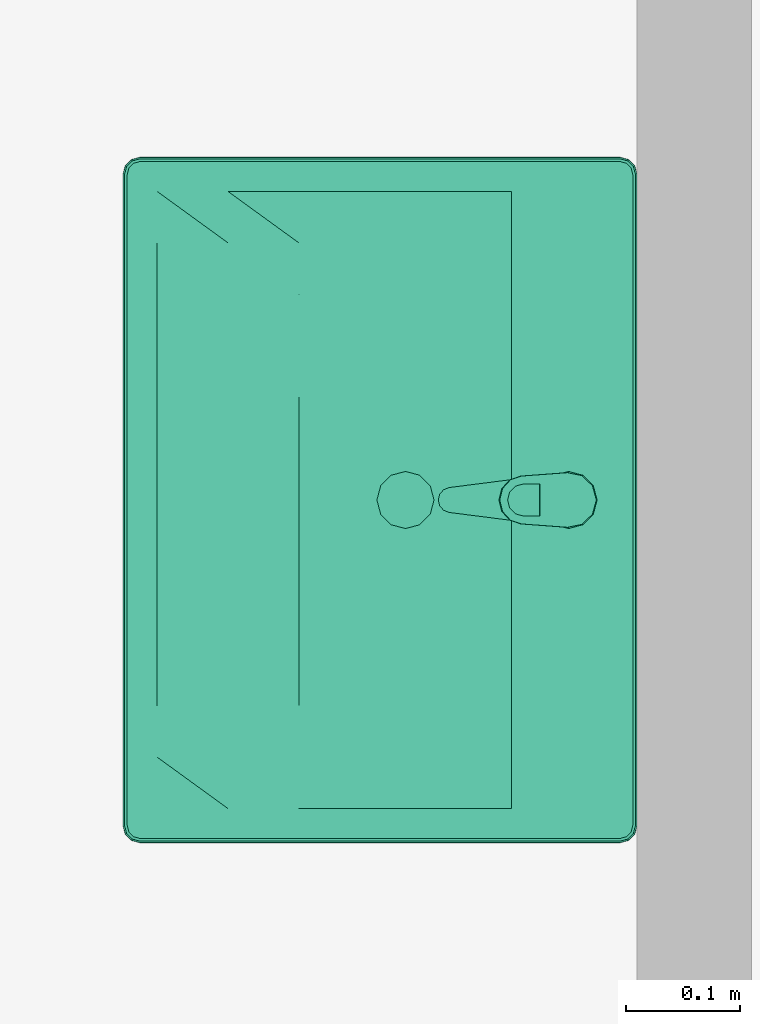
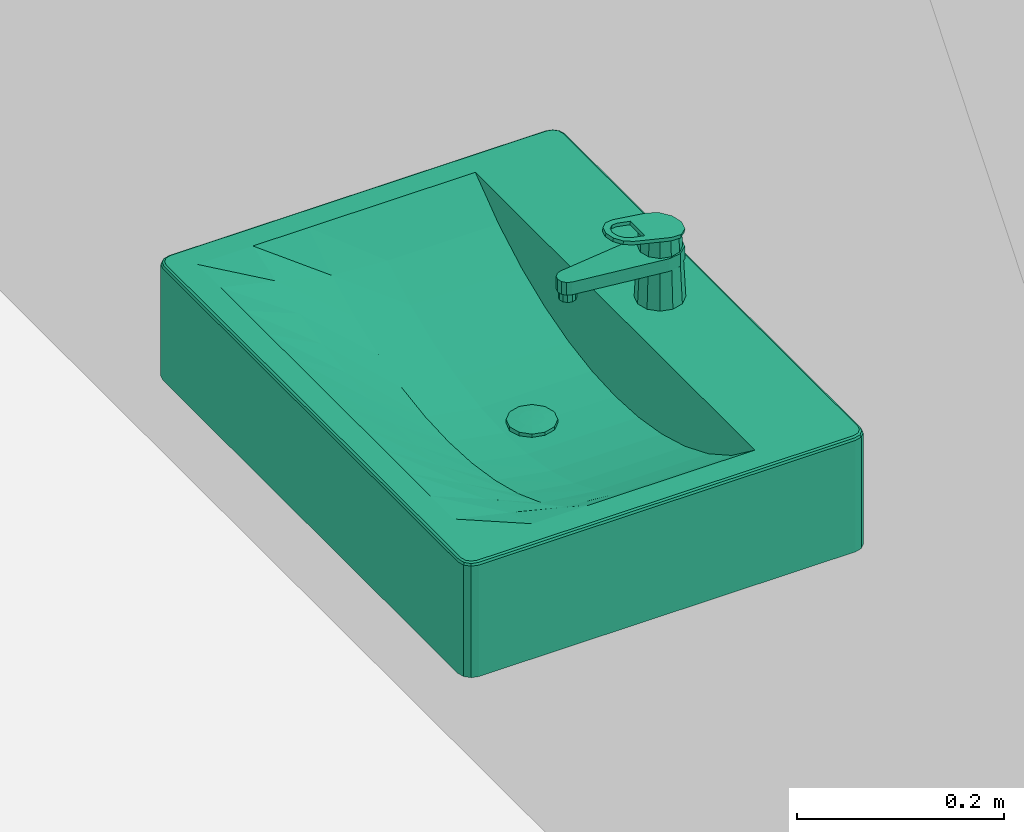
# One storey, part 95 of 117: 1 flow controller.
"""IFC2X3 building model written with IfcOpenShell, lengths in millimetres."""

from ifc_helpers import new_model, entity, si_unit, converted_unit, derived_unit, money_unit, direction, frame, origin_with_axes, place, context, subcontext, project, spatial, open_shell, faceted_brep, surface_model, source, transform, mapped, type_object, type_shapes, element, save


model = new_model("IFC2X3")

# Units and contexts
model_context = context("Model", 3, precision=0.01, world=origin_with_axes(), true_north=direction((0.0, 1.0)))
body_context = subcontext(model_context, "Body", "Model", "MODEL_VIEW")
ifc_project = project(units=[si_unit("LENGTHUNIT", "METRE", prefix="MILLI"), si_unit("AREAUNIT", "SQUARE_METRE"), si_unit("VOLUMEUNIT", "CUBIC_METRE"), converted_unit("PLANEANGLEUNIT", "DEGREE", entity("IfcPlaneAngleMeasure", 0.0174532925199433), si_unit("PLANEANGLEUNIT", "RADIAN"), dimensions=[0, 0, 0, 0, 0, 0, 0]), money_unit("EUR"), converted_unit("TIMEUNIT", "Year", entity("IfcTimeMeasure", 31557600.0), si_unit("TIMEUNIT", "SECOND"), dimensions=[0, 0, 1, 0, 0, 0, 0]), si_unit("MASSUNIT", "GRAM", prefix="KILO"), si_unit("THERMODYNAMICTEMPERATUREUNIT", "DEGREE_CELSIUS"), si_unit("LUMINOUSINTENSITYUNIT", "LUMEN"), si_unit("ENERGYUNIT", "JOULE", prefix="MEGA"), derived_unit("THERMALCONDUCTANCEUNIT", [(si_unit("POWERUNIT", "WATT"), 1), (si_unit("LENGTHUNIT", "METRE"), -1), (si_unit("THERMODYNAMICTEMPERATUREUNIT", "KELVIN"), -1)]), derived_unit("SPECIFICHEATCAPACITYUNIT", [(si_unit("ENERGYUNIT", "JOULE"), 1), (si_unit("MASSUNIT", "GRAM", prefix="KILO"), -1), (si_unit("THERMODYNAMICTEMPERATUREUNIT", "KELVIN"), -1)]), derived_unit("MASSDENSITYUNIT", [(si_unit("MASSUNIT", "GRAM", prefix="KILO"), 1), (si_unit("VOLUMEUNIT", "CUBIC_METRE"), -1)])], contexts=[model_context])

# Site, building, storey
site_placement = place(None, origin_with_axes())
site = spatial("IfcSite", under=ifc_project, at=site_placement, Name="Site", CompositionType="ELEMENT")
building_placement = place(site_placement, origin_with_axes())
building = spatial("IfcBuilding", under=site, at=building_placement, Name="Naam gebouw", CompositionType="ELEMENT")
storey_placement = place(building_placement, frame((0.0, 0.0, 4150.0), z_axis=(0.0, 0.0, 1.0), x_axis=(1.0, 0.0, 0.0)))
storey = spatial("IfcBuildingStorey", under=building, at=storey_placement, Name="1e verdieping N", CompositionType="ELEMENT", Elevation=4150.0)

# Flow controller
valve_type = type_object("IfcValveType", Name="Wasbak 27", PredefinedType="NOTDEFINED")
shared_shape = source(origin_with_axes(), body_context, "Body", "SurfaceModel", [
    faceted_brep([(285.0, -450.0, 865.0), (-285.0, -450.0, 865.0), (-292.5, -447.9903810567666, 865.0), (-297.9903810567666, -442.5, 865.0), (-300.0, -435.0, 865.0), (-300.0, -15.00000000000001, 865.0), (-297.9903810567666, -7.500000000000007, 865.0), (-292.5, -2.009618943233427, 865.0), (-285.0, 0.0, 865.0), (285.0, 0.0, 865.0), (292.5, -2.009618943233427, 865.0), (297.9903810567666, -7.500000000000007, 865.0), (300.0, -15.00000000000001, 865.0), (300.0, -435.0, 865.0), (297.9903810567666, -442.5, 865.0), (292.5, -447.9903810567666, 865.0), (-270.0, -420.0000000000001, 865.0), (270.0, -420.0000000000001, 865.0), (270.0, -110.0, 865.0), (-270.0, -110.0, 865.0), (284.9999995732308, -450.0000003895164, 995.0), (-284.9999997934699, -450.0000003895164, 995.0), (-292.5000000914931, -447.9903813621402, 995.0), (-297.9903813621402, -442.5000000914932, 995.0), (-300.0000003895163, -434.99999979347, 995.0), (-300.0000003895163, -14.99999986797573, 995.0), (-297.9903813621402, -7.499999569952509, 995.0), (-292.5000000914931, -2.009619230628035, 995.0), (-284.9999997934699, -2.032518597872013e-07, 995.0), (284.9999995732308, -2.032518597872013e-07, 995.0), (292.499999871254, -2.009619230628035, 995.0), (297.990381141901, -7.499999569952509, 995.0), (300.0000001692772, -14.99999986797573, 995.0), (300.0000001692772, -434.99999979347, 995.0), (297.990381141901, -442.5000000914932, 995.0), (292.499999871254, -447.9903813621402, 995.0), (-270.0, -420.0000000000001, 999.9999996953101), (270.0, -420.0000000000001, 999.9999996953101), (270.0, -110.0, 999.9999996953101), (-270.0, -110.0, 999.9999996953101), (284.9775698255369, -449.8296295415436, 996.2940952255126), (-284.9775700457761, -449.8296295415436, 996.2940952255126), (-292.4118096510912, -447.8376310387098, 996.2940952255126), (-297.8376310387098, -442.4118096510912, 996.2940952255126), (-299.8296295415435, -434.9775700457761, 996.2940952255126), (-299.8296295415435, -15.02242961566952, 996.2940952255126), (-297.8376310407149, -7.588190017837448, 996.2940952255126), (-292.4118096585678, -2.16236955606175, 996.2940952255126), (-284.9775700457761, -0.1703710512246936, 996.2940952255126), (284.9775698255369, -0.1703710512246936, 996.2940952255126), (292.4118094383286, -2.16236955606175, 996.2940952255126), (297.8376308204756, -7.588190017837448, 996.2940952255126), (299.8296293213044, -15.02242961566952, 996.2940952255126), (299.8296293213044, -434.9775700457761, 996.2940952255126), (297.8376308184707, -442.4118096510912, 996.2940952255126), (292.411809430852, -447.8376310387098, 996.2940952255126), (-284.3417376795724, -4.999997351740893, 999.9999996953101), (-289.911811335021, -6.492494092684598, 999.9999996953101), (-293.5075066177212, -10.08818876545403, 999.9999996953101), (-295.0000032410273, -15.6582619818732, 999.9999996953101), (-295.0000032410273, -434.3417376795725, 999.9999996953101), (-293.5075065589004, -439.9118111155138, 999.9999996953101), (-289.9118111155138, -443.5075065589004, 999.9999996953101), (-284.3417376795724, -445.0000032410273, 999.9999996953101), (284.3417374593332, -445.0000032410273, 999.9999996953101), (289.9118108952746, -443.5075065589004, 999.9999996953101), (293.5075063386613, -439.9118111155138, 999.9999996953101), (295.0000030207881, -434.3417376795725, 999.9999996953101), (295.0000030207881, -15.6582619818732, 999.9999996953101), (293.507506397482, -10.08818876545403, 999.9999996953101), (289.9118111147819, -6.492494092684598, 999.9999996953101), (284.3417374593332, -4.999997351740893, 999.9999996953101), (284.8071989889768, -448.5355345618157, 998.5355339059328), (-284.8071992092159, -448.5355345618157, 998.5355339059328), (-291.7419367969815, -446.6773772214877, 998.5355339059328), (-296.6773772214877, -441.7419367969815, 998.5355339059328), (-298.5355345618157, -434.807199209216, 998.5355339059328), (-298.5355345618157, -15.1928004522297, 998.5355339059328), (-296.6773772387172, -8.258062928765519, 998.5355339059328), (-291.7419368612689, -3.322623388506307, 998.5355339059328), (-284.8071992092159, -1.464466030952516, 998.5355339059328), (284.8071989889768, -1.464466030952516, 998.5355339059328), (291.7419366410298, -3.322623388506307, 998.5355339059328), (296.677377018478, -8.258062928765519, 998.5355339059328), (298.5355343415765, -15.1928004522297, 998.5355339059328), (298.5355343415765, -434.807199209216, 998.5355339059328), (296.6773770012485, -441.7419367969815, 998.5355339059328), (291.7419365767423, -446.6773772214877, 998.5355339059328), (-290.5816830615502, -5.332242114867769, 999.8296291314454), (-284.5121082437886, -3.705904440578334, 999.8296291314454), (-294.6677585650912, -9.418316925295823, 999.8296291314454), (-296.2940961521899, -15.487891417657, 999.8296291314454), (-296.2940961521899, -434.5121082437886, 999.8296291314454), (-294.6677585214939, -440.5816828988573, 999.8296291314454), (-290.5816828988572, -444.6677585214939, 999.8296291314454), (-284.5121082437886, -446.2940961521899, 999.8296291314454), (284.5121080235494, -446.2940961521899, 999.8296291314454), (290.5816826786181, -444.6677585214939, 999.8296291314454), (294.6677583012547, -440.5816828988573, 999.8296291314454), (296.2940959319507, -434.5121082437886, 999.8296291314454), (296.2940959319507, -15.487891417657, 999.8296291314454), (294.667758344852, -9.418316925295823, 999.8296291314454), (290.581682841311, -5.332242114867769, 999.8296291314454), (284.5121080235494, -3.705904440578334, 999.8296291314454)], [[[0, 1, 2, 3, 4, 5, 6, 7, 8, 9, 10, 11, 12, 13, 14, 15], [16, 17, 18, 19]], [[0, 20, 21, 1]], [[1, 21, 22, 2]], [[2, 22, 23, 3]], [[3, 23, 24, 4]], [[4, 24, 25, 5]], [[5, 25, 26, 6]], [[6, 26, 27, 7]], [[7, 27, 28, 8]], [[8, 28, 29, 9]], [[9, 29, 30, 10]], [[10, 30, 31, 11]], [[11, 31, 32, 12]], [[12, 32, 33, 13]], [[13, 33, 34, 14]], [[14, 34, 35, 15]], [[15, 35, 20, 0]], [[36, 37, 17, 16]], [[37, 38, 18, 17]], [[38, 39, 19, 18]], [[39, 36, 16, 19]], [[20, 40, 41, 21]], [[21, 41, 42, 22]], [[22, 42, 43, 23]], [[23, 43, 44, 24]], [[24, 44, 45, 25]], [[25, 45, 46, 26]], [[26, 46, 47, 27]], [[27, 47, 48, 28]], [[28, 48, 49, 29]], [[29, 49, 50, 30]], [[30, 50, 51, 31]], [[31, 51, 52, 32]], [[32, 52, 53, 33]], [[33, 53, 54, 34]], [[34, 54, 55, 35]], [[35, 55, 40, 20]], [[56, 57, 58, 59, 60, 61, 62, 63, 64, 65, 66, 67, 68, 69, 70, 71], [36, 39, 38, 37]], [[40, 72, 73, 41]], [[41, 73, 74, 42]], [[42, 74, 75, 43]], [[43, 75, 76, 44]], [[44, 76, 77, 45]], [[45, 77, 78, 46]], [[46, 78, 79, 47]], [[47, 79, 80, 48]], [[48, 80, 81, 49]], [[49, 81, 82, 50]], [[50, 82, 83, 51]], [[51, 83, 84, 52]], [[52, 84, 85, 53]], [[53, 85, 86, 54]], [[54, 86, 87, 55]], [[55, 87, 72, 40]], [[88, 57, 56, 89]], [[90, 58, 57, 88]], [[91, 59, 58, 90]], [[92, 60, 59, 91]], [[93, 61, 60, 92]], [[94, 62, 61, 93]], [[95, 63, 62, 94]], [[96, 64, 63, 95]], [[97, 65, 64, 96]], [[98, 66, 65, 97]], [[99, 67, 66, 98]], [[100, 68, 67, 99]], [[101, 69, 68, 100]], [[102, 70, 69, 101]], [[103, 71, 70, 102]], [[89, 56, 71, 103]], [[72, 96, 95, 73]], [[73, 95, 94, 74]], [[74, 94, 93, 75]], [[75, 93, 92, 76]], [[76, 92, 91, 77]], [[77, 91, 90, 78]], [[78, 90, 88, 79]], [[79, 88, 89, 80]], [[80, 89, 103, 81]], [[81, 103, 102, 82]], [[82, 102, 101, 83]], [[83, 101, 100, 84]], [[84, 100, 99, 85]], [[85, 99, 98, 86]], [[86, 98, 97, 87]], [[87, 97, 96, 72]]]),
    faceted_brep([(-270.0, -420.0000000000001, 865.0), (-270.0, -110.0, 865.0), (270.0, -110.0, 865.0), (270.0, -420.0000000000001, 865.0), (12.49999999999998, -224.368635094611, 865.0), (21.65063509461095, -215.218, 865.0), (25.0, -202.718, 865.0), (21.65063509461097, -190.218, 865.0), (12.50000000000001, -181.067364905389, 865.0), (0.0, -177.718, 865.0), (-12.49999999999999, -181.067364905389, 865.0), (-21.65063509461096, -190.218, 865.0), (-25.0, -202.718, 865.0), (-21.65063509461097, -215.218, 865.0), (-12.50000000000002, -224.368635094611, 865.0), (0.0, -227.718, 865.0), (-270.0, -296.0000000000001, 1000.0), (-270.0, -234.0, 1000.0), (-270.0, -172.0, 1000.0), (-270.0, -110.0, 1000.0), (-270.0, -420.0000000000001, 1000.0), (-270.0, -358.0000000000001, 1000.0), (135.0, -110.0, 922.6004593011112), (180.0000000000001, -110.0, 941.1231796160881), (225.0, -110.0, 966.3832810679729), (270.0, -110.0, 1000.0), (-225.0, -110.0, 966.3832810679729), (-180.0, -110.0, 941.1231796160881), (-135.0, -110.0, 922.6004593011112), (-90.0, -110.0, 909.8887668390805), (-44.99999999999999, -110.0, 902.449942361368), (0.0, -110.0, 900.0), (45.00000000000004, -110.0, 902.449942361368), (90.00000000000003, -110.0, 909.8887668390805), (270.0, -234.0, 1000.0), (270.0, -296.0000000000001, 999.9999999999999), (270.0, -358.0000000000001, 1000.0), (270.0, -420.0000000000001, 1000.0), (270.0, -172.0, 1000.0), (-135.0, -420.0000000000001, 1000.0), (-180.0, -420.0000000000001, 1000.0), (-225.0, -420.0000000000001, 1000.0), (225.0, -420.0000000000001, 1000.0), (180.0000000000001, -420.0000000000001, 1000.0), (135.0, -420.0000000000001, 1000.0), (90.00000000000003, -420.0000000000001, 1000.0), (45.00000000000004, -420.0000000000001, 1000.0), (0.0, -420.0000000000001, 1000.0), (-44.99999999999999, -420.0000000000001, 1000.0), (-90.0, -420.0000000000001, 1000.0), (12.49999999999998, -224.368635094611, 900.6805395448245), (21.65063509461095, -215.218, 901.1787290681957), (25.0, -202.718, 901.3610790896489), (21.65063509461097, -190.218, 901.1787290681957), (12.50000000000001, -181.067364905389, 900.6805395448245), (0.0, -177.718, 900.0), (-12.49999999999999, -181.067364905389, 900.6805395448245), (-21.65063509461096, -190.218, 901.1787290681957), (-25.0, -202.718, 901.3610790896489), (-21.65063509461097, -215.218, 901.1787290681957), (-12.50000000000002, -224.368635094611, 900.6805395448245), (0.0, -227.718, 900.0), (-225.0, -234.0, 966.3832810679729), (-225.0, -172.0, 966.3832810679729), (-225.0, -358.0000000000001, 985.9168845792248), (-225.0, -296.0000000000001, 970.8433791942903), (180.0000000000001, -172.0, 941.1231796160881), (135.0, -172.0, 922.6004593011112), (225.0, -172.0, 966.3832810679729), (-180.0, -172.0, 941.1231796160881), (-135.0, -172.0, 922.6004593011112), (-90.0, -172.0, 909.8887668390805), (-44.99999999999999, -172.0, 902.449942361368), (0.0, -172.0, 900.0), (45.00000000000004, -172.0, 902.449942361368), (90.00000000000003, -172.0, 909.8887668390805), (225.0, -296.0000000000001, 970.8433791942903), (225.0, -358.0000000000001, 985.9168845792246), (225.0, -234.0, 966.3832810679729), (-135.0, -358.0000000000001, 965.8650987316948), (-180.0, -358.0000000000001, 974.5766150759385), (180.0000000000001, -358.0000000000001, 974.5766150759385), (135.0, -358.0000000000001, 965.8650987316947), (90.00000000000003, -358.0000000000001, 959.6989661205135), (45.00000000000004, -358.0000000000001, 956.0213334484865), (0.0, -358.0000000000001, 954.7990813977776), (-44.99999999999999, -358.0000000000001, 956.0213334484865), (-90.0, -358.0000000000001, 959.6989661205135), (0.0, -234.0, 900.0), (45.00000000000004, -234.0, 902.449942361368), (-44.99999999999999, -234.0, 902.449942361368), (-180.0, -234.0, 941.1231796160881), (180.0000000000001, -234.0, 941.1231796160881), (135.0, -234.0, 922.6004593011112), (-135.0, -234.0, 922.6004593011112), (-90.0, -234.0, 909.8887668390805), (90.00000000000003, -234.0, 909.8887668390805), (0.0, -296.0000000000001, 911.4604006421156), (-44.99999999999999, -296.0000000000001, 913.6864730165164), (-180.0, -296.0000000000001, 948.4946543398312), (135.0, -296.0000000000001, 931.904485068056), (180.0000000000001, -296.0000000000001, 948.4946543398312), (-135.0, -296.0000000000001, 931.904485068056), (-90.0, -296.0000000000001, 920.4312036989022), (45.00000000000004, -296.0000000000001, 913.6864730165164), (90.00000000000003, -296.0000000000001, 920.4312036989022)], [[[0, 1, 2, 3], [4, 5, 6, 7, 8, 9, 10, 11, 12, 13, 14, 15]], [[16, 17, 18, 19, 1, 0, 20, 21]], [[22, 23, 24, 25, 2, 1, 19, 26, 27, 28, 29, 30, 31, 32, 33]], [[34, 35, 36, 37, 3, 2, 25, 38]], [[39, 40, 41, 20, 0, 3, 37, 42, 43, 44, 45, 46, 47, 48, 49]], [[50, 51, 5, 4]], [[51, 52, 6, 5]], [[52, 53, 7, 6]], [[53, 54, 8, 7]], [[54, 55, 9, 8]], [[55, 56, 10, 9]], [[56, 57, 11, 10]], [[57, 58, 12, 11]], [[58, 59, 13, 12]], [[59, 60, 14, 13]], [[60, 61, 15, 14]], [[61, 50, 4, 15]], [[16, 62, 17]], [[62, 63, 18, 17]], [[63, 26, 19, 18]], [[20, 64, 21]], [[21, 65, 16]], [[66, 23, 22, 67]], [[68, 24, 23, 66]], [[38, 25, 24, 68]], [[69, 27, 26, 63]], [[70, 28, 27, 69]], [[71, 29, 28, 70]], [[72, 30, 29, 71]], [[73, 31, 30, 72]], [[74, 32, 31, 73]], [[75, 33, 32, 74]], [[67, 22, 33, 75]], [[76, 35, 34]], [[77, 36, 35]], [[42, 37, 36]], [[34, 38, 68, 78]], [[40, 39, 79]], [[41, 40, 80]], [[20, 41, 64]], [[43, 42, 77]], [[44, 43, 81]], [[45, 44, 82]], [[46, 45, 83]], [[47, 46, 84]], [[48, 47, 85]], [[49, 48, 86]], [[39, 49, 87]], [[54, 53, 52, 51, 50, 61, 88, 89, 74, 73, 55]], [[56, 55, 73, 72, 90, 88, 61, 60, 59, 58, 57]], [[16, 65, 62]], [[91, 69, 63, 62]], [[21, 64, 65]], [[92, 66, 67, 93]], [[78, 68, 66, 92]], [[94, 70, 69, 91]], [[95, 71, 70, 94]], [[90, 72, 71, 95]], [[96, 75, 74, 89]], [[93, 67, 75, 96]], [[77, 35, 76]], [[76, 34, 78]], [[42, 36, 77]], [[39, 87, 79]], [[40, 79, 80]], [[41, 80, 64]], [[43, 77, 81]], [[44, 81, 82]], [[45, 82, 83]], [[46, 83, 84]], [[47, 84, 85]], [[48, 85, 86]], [[49, 86, 87]], [[97, 89, 88]], [[98, 88, 90]], [[65, 91, 62]], [[64, 99, 65]], [[100, 92, 93]], [[101, 78, 92]], [[99, 94, 91]], [[102, 95, 94]], [[103, 90, 95]], [[104, 96, 89]], [[105, 93, 96]], [[81, 77, 76]], [[101, 76, 78]], [[79, 87, 103]], [[80, 79, 102]], [[64, 80, 99]], [[82, 81, 101]], [[83, 82, 100]], [[84, 83, 105]], [[85, 84, 104]], [[86, 85, 97]], [[87, 86, 98]], [[97, 104, 89]], [[98, 97, 88]], [[103, 98, 90]], [[65, 99, 91]], [[100, 101, 92]], [[105, 100, 93]], [[99, 102, 94]], [[102, 103, 95]], [[104, 105, 96]], [[81, 76, 101]], [[87, 98, 103]], [[79, 103, 102]], [[80, 102, 99]], [[82, 101, 100]], [[83, 100, 105]], [[84, 105, 104]], [[85, 104, 97]], [[86, 97, 98]]]),
    faceted_brep([(21.65063509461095, -215.218, 900.0), (12.49999999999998, -224.368635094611, 900.0), (0.0, -227.718, 900.0), (-12.50000000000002, -224.368635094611, 900.0), (-21.65063509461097, -215.218, 900.0), (-25.0, -202.718, 900.0), (-21.65063509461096, -190.218, 900.0), (-12.49999999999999, -181.067364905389, 900.0), (0.0, -177.718, 900.0), (12.50000000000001, -181.067364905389, 900.0), (21.65063509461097, -190.218, 900.0), (25.0, -202.718, 900.0), (21.65063509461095, -215.218, 905.0), (12.49999999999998, -224.368635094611, 905.0), (0.0, -227.718, 905.0), (-12.50000000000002, -224.368635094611, 905.0), (-21.65063509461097, -215.218, 905.0), (-25.0, -202.718, 905.0), (-21.65063509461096, -190.218, 905.0), (-12.49999999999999, -181.067364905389, 905.0), (0.0, -177.718, 905.0), (12.50000000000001, -181.067364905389, 905.0), (21.65063509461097, -190.218, 905.0), (25.0, -202.718, 905.0)], [[[0, 1, 2, 3, 4, 5, 6, 7, 8, 9, 10, 11]], [[1, 0, 12, 13]], [[2, 1, 13, 14]], [[3, 2, 14, 15]], [[4, 3, 15, 16]], [[5, 4, 16, 17]], [[6, 5, 17, 18]], [[7, 6, 18, 19]], [[8, 7, 19, 20]], [[9, 8, 20, 21]], [[10, 9, 21, 22]], [[11, 10, 22, 23]], [[0, 11, 23, 12]], [[12, 23, 22, 21, 20, 19, 18, 17, 16, 15, 14, 13]]]),
    surface_model("IfcShellBasedSurfaceModel", [(0.0, -202.718, 907.0), (0.0, -190.09609443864, 906.4975737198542), (-6.310952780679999, -191.7871091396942, 906.4975737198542), (6.310952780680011, -191.7871091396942, 906.4975737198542), (0.0, -177.718, 905.0), (-12.5, -181.067364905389, 905.0), (-10.93089086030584, -196.40704721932, 906.4975737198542), (10.93089086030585, -196.40704721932, 906.4975737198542), (12.50000000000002, -181.067364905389, 905.0), (-21.65063509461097, -190.218, 905.0), (-12.62190556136, -202.718, 906.4975737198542), (12.62190556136, -202.718, 906.4975737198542), (21.65063509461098, -190.218, 905.0), (-25.0, -202.718, 905.0), (-10.93089086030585, -209.02895278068, 906.4975737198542), (10.93089086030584, -209.02895278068, 906.4975737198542), (25.0, -202.718, 905.0), (-21.65063509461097, -215.218, 905.0), (-6.310952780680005, -213.6488908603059, 906.4975737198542), (6.310952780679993, -213.6488908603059, 906.4975737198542), (21.65063509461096, -215.218, 905.0), (-12.50000000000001, -224.368635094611, 905.0), (0.0, -215.33990556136, 906.4975737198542), (12.49999999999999, -224.368635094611, 905.0), (0.0, -227.718, 905.0)], [open_shell([[[0, 1, 2]], [[0, 3, 1]], [[2, 1, 4, 5]], [[0, 2, 6]], [[0, 7, 3]], [[1, 3, 8, 4]], [[6, 2, 5, 9]], [[0, 6, 10]], [[0, 11, 7]], [[3, 7, 12, 8]], [[10, 6, 9, 13]], [[0, 10, 14]], [[0, 15, 11]], [[7, 11, 16, 12]], [[14, 10, 13, 17]], [[0, 14, 18]], [[0, 19, 15]], [[11, 15, 20, 16]], [[18, 14, 17, 21]], [[0, 18, 22]], [[0, 22, 19]], [[15, 19, 23, 20]], [[22, 18, 21, 24]], [[19, 22, 24, 23]]])]),
    faceted_brep([(12.50000000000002, -38.34936490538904, 1000.0), (0.0, -34.99999999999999, 1000.0), (0.0, -38.79807692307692, 1075.961538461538), (10.587322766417, -41.66221905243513, 1076.507089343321), (21.65063509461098, -47.50000000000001, 1000.0), (25.0, -60.00000000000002, 1000.0), (21.65063509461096, -72.50000000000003, 1000.0), (12.49999999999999, -81.65063509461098, 1000.0), (0.0, -84.99999999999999, 1000.0), (-12.50000000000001, -81.65063509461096, 1000.0), (-21.65063509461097, -72.5, 1000.0), (-25.0, -59.99999999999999, 1000.0), (-21.65063509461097, -47.49999999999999, 1000.0), (-12.5, -38.34936490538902, 1000.0), (-10.58732276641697, -41.66221905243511, 1076.507089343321), (-18.27355038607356, -49.44976076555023, 1077.99043062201), (-21.0, -59.99999999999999, 1080.0), (-18.10034137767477, -70.45023696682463, 1081.990521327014), (-10.41410590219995, -78.0377605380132, 1083.435763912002), (0.0, -80.80188679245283, 1083.962264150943), (10.41410590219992, -78.03776053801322, 1083.435763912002), (18.10034137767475, -70.45023696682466, 1081.990521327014), (21.0, -60.00000000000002, 1080.0), (18.27355038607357, -49.44976076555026, 1077.99043062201)], [[[0, 1, 2, 3]], [[0, 4, 5, 6, 7, 8, 9, 10, 11, 12, 13, 1]], [[1, 13, 14, 2]], [[3, 2, 14, 15, 16, 17, 18, 19, 20, 21, 22, 23]], [[4, 0, 3, 23]], [[5, 4, 23, 22]], [[6, 5, 22, 21]], [[7, 6, 21, 20]], [[8, 7, 20, 19]], [[9, 8, 19, 18]], [[10, 9, 18, 17]], [[11, 10, 17, 16]], [[12, 11, 16, 15]], [[13, 12, 15, 14]]]),
    faceted_brep([(9.000000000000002, -163.0, 1035.0), (7.794228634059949, -158.5, 1035.0), (7.794228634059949, -158.5, 1045.0), (9.000000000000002, -163.0, 1045.0), (7.794228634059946, -167.5, 1035.0), (4.499999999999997, -170.79422863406, 1035.0), (0.0, -172.0, 1035.0), (-4.500000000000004, -170.79422863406, 1035.0), (-7.794228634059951, -167.5, 1035.0), (-9.000000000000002, -163.0, 1035.0), (-7.794228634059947, -158.5, 1035.0), (-4.499999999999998, -155.2057713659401, 1035.0), (0.0, -154.0, 1035.0), (4.500000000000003, -155.2057713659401, 1035.0), (4.500000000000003, -155.2057713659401, 1045.0), (0.0, -154.0, 1045.0), (-4.499999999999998, -155.2057713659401, 1045.0), (-7.794228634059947, -158.5, 1045.0), (-9.000000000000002, -163.0, 1045.0), (-7.794228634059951, -167.5, 1045.0), (-4.500000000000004, -170.79422863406, 1045.0), (0.0, -172.0, 1045.0), (4.499999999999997, -170.79422863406, 1045.0), (7.794228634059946, -167.5, 1045.0)], [[[0, 1, 2, 3]], [[0, 4, 5, 6, 7, 8, 9, 10, 11, 12, 13, 1]], [[1, 13, 14, 2]], [[3, 2, 14, 15, 16, 17, 18, 19, 20, 21, 22, 23]], [[4, 0, 3, 23]], [[5, 4, 23, 22]], [[6, 5, 22, 21]], [[7, 6, 21, 20]], [[8, 7, 20, 19]], [[9, 8, 19, 18]], [[10, 9, 18, 17]], [[11, 10, 17, 16]], [[12, 11, 16, 15]], [[13, 12, 15, 14]]]),
    faceted_brep([(-12.87171762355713, -39.74369617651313, 1060.0), (-21.72780530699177, -49.80679463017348, 1060.0), (-23.8054, -63.04989999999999, 1060.0), (-10.9119908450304, -164.3883719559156, 1060.0), (-9.02887546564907, -169.2831941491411, 1060.0), (-5.093324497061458, -172.7497264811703, 1060.0), (3.626798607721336e-05, -173.9999600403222, 1060.0), (5.093388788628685, -172.7496928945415, 1060.0), (9.02891689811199, -169.2831346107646, 1060.0), (10.912, -164.3883, 1060.0), (23.80539974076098, -63.04990202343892, 1060.0), (21.72780617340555, -49.80679647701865, 1060.0), (12.87171934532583, -39.74369727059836, 1060.0), (1.019988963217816e-06, -36.00002168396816, 1060.0), (11.00000000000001, -40.94744111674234, 1060.0), (19.05255888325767, -48.99999999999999, 1060.0), (22.00000000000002, -60.0, 1060.0), (19.05255888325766, -71.00000000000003, 1060.0), (10.99999999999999, -79.05255888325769, 1060.0), (0.0, -82.0, 1060.0), (-11.00000000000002, -79.05255888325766, 1060.0), (-19.05255888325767, -70.99999999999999, 1060.0), (-22.00000000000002, -59.99999999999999, 1060.0), (-19.05255888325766, -48.99999999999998, 1060.0), (-11.0, -40.94744111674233, 1060.0), (0.0, -37.99999999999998, 1060.0), (-21.72780530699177, -49.80679463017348, 1045.0), (-12.87171762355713, -39.74369617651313, 1045.0), (-23.8054, -63.04989999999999, 1045.0), (-10.9119908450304, -164.3883719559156, 1045.0), (-9.02887546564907, -169.2831941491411, 1045.0), (-5.093324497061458, -172.7497264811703, 1045.0), (3.626798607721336e-05, -173.9999600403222, 1045.0), (5.093388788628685, -172.7496928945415, 1045.0), (9.02891689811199, -169.2831346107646, 1045.0), (10.912, -164.3883, 1045.0), (23.80539974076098, -63.04990202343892, 1045.0), (21.72780617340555, -49.80679647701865, 1045.0), (12.87171934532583, -39.74369727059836, 1045.0), (1.019988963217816e-06, -36.00002168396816, 1045.0), (11.37500000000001, -40.297922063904, 1045.0), (19.70207793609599, -48.62499999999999, 1045.0), (22.75000000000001, -60.0, 1045.0), (19.70207793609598, -71.37500000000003, 1045.0), (11.37499999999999, -79.702077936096, 1045.0), (0.0, -82.75, 1045.0), (-11.37500000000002, -79.70207793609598, 1045.0), (-19.70207793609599, -71.375, 1045.0), (-22.75000000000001, -59.99999999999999, 1045.0), (-19.70207793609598, -48.62499999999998, 1045.0), (-11.375, -40.297922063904, 1045.0), (0.0, -37.24999999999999, 1045.0)], [[[0, 1, 2, 3, 4, 5, 6, 7, 8, 9, 10, 11, 12, 13], [14, 15, 16, 17, 18, 19, 20, 21, 22, 23, 24, 25]], [[26, 1, 0, 27]], [[28, 2, 1, 26]], [[29, 3, 2, 28]], [[30, 4, 3, 29]], [[31, 5, 4, 30]], [[32, 6, 5, 31]], [[33, 7, 6, 32]], [[34, 8, 7, 33]], [[35, 9, 8, 34]], [[36, 10, 9, 35]], [[37, 11, 10, 36]], [[38, 12, 11, 37]], [[39, 13, 12, 38]], [[27, 0, 13, 39]], [[40, 41, 15, 14]], [[41, 42, 16, 15]], [[42, 43, 17, 16]], [[43, 44, 18, 17]], [[44, 45, 19, 18]], [[20, 19, 45, 46]], [[21, 20, 46, 47]], [[22, 21, 47, 48]], [[23, 22, 48, 49]], [[24, 23, 49, 50]], [[50, 51, 25, 24]], [[51, 40, 14, 25]], [[32, 31, 30, 29, 28, 26, 27, 39, 38, 37, 36, 35, 34, 33], [44, 43, 42, 41, 40, 51, 50, 49, 48, 47, 46, 45]]]),
    faceted_brep([(23.893, -61.69256934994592, 1080.322394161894), (21.29642141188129, -49.22528119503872, 1077.947672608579), (21.29642141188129, -48.47683276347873, 1081.877026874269), (23.893, -60.94412091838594, 1084.251748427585), (20.94593649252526, -101.8367022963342, 1087.968895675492), (17.66313911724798, -111.514366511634, 1089.81226028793), (10.06143529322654, -118.4637460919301, 1091.135951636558), (-0.0004426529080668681, -120.9856119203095, 1091.61630703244), (-10.06221236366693, -118.4633294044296, 1091.13587226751), (-17.66361794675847, -111.5136350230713, 1089.812120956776), (-20.946, -101.8358348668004, 1087.968730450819), (-23.89302047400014, -61.69229042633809, 1080.322341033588), (-21.29629106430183, -49.22503258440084, 1077.947625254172), (-12.4716815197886, -39.90880255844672, 1076.173105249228), (0.0001423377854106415, -36.46803549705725, 1075.517721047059), (12.47192457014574, -39.90894815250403, 1076.173132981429), (14.0, -85.54080272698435, 1084.86491480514), (-14.0, -85.54080272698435, 1084.86491480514), (-14.0, -100.3564329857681, 1087.686939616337), (-12.12435565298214, -107.2328029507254, 1088.996724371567), (-7.000000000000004, -112.2666551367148, 1089.955553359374), (0.0, -114.1091729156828, 1090.306509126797), (6.999999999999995, -112.2666551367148, 1089.955553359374), (12.12435565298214, -107.2328029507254, 1088.996724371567), (14.0, -100.3564329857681, 1087.686939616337), (12.47192457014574, -39.16049972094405, 1080.102487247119), (0.0001423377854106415, -35.71958706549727, 1079.447075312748), (-12.4716815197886, -39.16035412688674, 1080.102459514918), (-21.29629106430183, -48.47658415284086, 1081.876979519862), (-23.89302047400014, -60.9438419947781, 1084.251695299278), (-20.946, -101.0873864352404, 1091.898084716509), (-17.66361794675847, -110.7651865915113, 1093.741475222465), (-10.06221236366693, -117.7148809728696, 1095.0652265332), (-0.0004426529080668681, -120.2371634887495, 1095.54566129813), (10.06143529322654, -117.7152976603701, 1095.065305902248), (17.66313911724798, -110.765918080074, 1093.74161455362), (20.94593649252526, -101.0882538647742, 1091.898249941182), (14.0, -84.79235429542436, 1088.79426907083), (14.0, -99.60798455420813, 1091.616293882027), (12.12435565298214, -106.4843545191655, 1092.926078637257), (6.999999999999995, -111.5182067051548, 1093.884907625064), (0.0, -113.3607244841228, 1094.235863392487), (-7.000000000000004, -111.5182067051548, 1093.884907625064), (-12.12435565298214, -106.4843545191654, 1092.926078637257), (-14.0, -99.60798455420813, 1091.616293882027), (-14.0, -84.79235429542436, 1088.79426907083)], [[[0, 1, 2, 3]], [[0, 4, 5, 6, 7, 8, 9, 10, 11, 12, 13, 14, 15, 1], [16, 17, 18, 19, 20, 21, 22, 23, 24]], [[1, 15, 25, 2]], [[3, 2, 25, 26, 27, 28, 29, 30, 31, 32, 33, 34, 35, 36], [37, 38, 39, 40, 41, 42, 43, 44, 45]], [[4, 0, 3, 36]], [[5, 4, 36, 35]], [[6, 5, 35, 34]], [[7, 6, 34, 33]], [[8, 7, 33, 32]], [[9, 8, 32, 31]], [[10, 9, 31, 30]], [[11, 10, 30, 29]], [[12, 11, 29, 28]], [[13, 12, 28, 27]], [[14, 13, 27, 26]], [[15, 14, 26, 25]], [[17, 16, 37, 45]], [[18, 17, 45, 44]], [[19, 18, 44, 43]], [[20, 19, 43, 42]], [[21, 20, 42, 41]], [[22, 21, 41, 40]], [[23, 22, 40, 39]], [[24, 23, 39, 38]], [[16, 24, 38, 37]]]),
])
type_shapes(valve_type, [shared_shape])
flow_controller_placement = place(storey_placement, frame((3549.999999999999, 5253.147259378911, -150.0000000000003), z_axis=(0.0, 0.0, 1.0), x_axis=(0.0, -1.0, 0.0)))
element("IfcFlowController", 1, at=flow_controller_placement, inside=storey, type_object=valve_type, Name="_Sanitair-x", ObjectType="Electric Distribution Board", context=body_context, shape_type="MappedRepresentation", body=[
    mapped(shared_shape, transform((0.0, 0.0, 0.0))),
])

save(model, "model.ifc")
